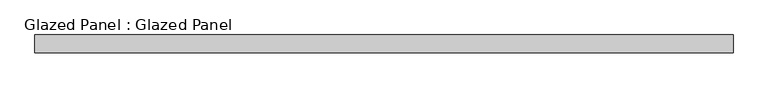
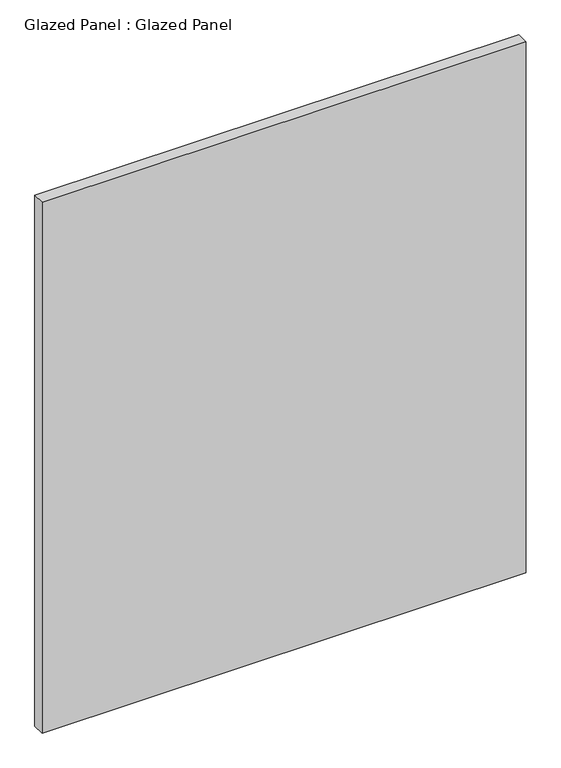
"""IFC4 building model written with IfcOpenShell, lengths in millimetres: plate geometry, Glazed Panel : Glazed Panel."""

from ifc_helpers import new_model, si_unit, origin, origin_with_axes, place, context, project, spatial, polyline, outline, extrude, source, transform, mapped, element, save


def glazed_panel_glazed_panel_c77fde78(model_context):
    return source(origin(), model_context, "Body", "SweptSolid", [
        extrude(outline(polyline([(498.7728003, -38.1), (498.7728003, -63.5), (-498.7728003, -63.5), (-498.7728003, -38.1), (498.7728003, -38.1)])), origin_with_axes(), (0.0, 0.0, 1.0), 1155.7),
    ])


if __name__ == "__main__":
    model = new_model("IFC4")
    model_context = context("Model", 3, world=origin())
    ifc_project = project(units=[si_unit("LENGTHUNIT", "METRE", prefix="MILLI")], contexts=[model_context])
    site = spatial("IfcSite", under=ifc_project)
    building = spatial("IfcBuilding", under=site)
    placement = place(None, origin())
    glazed_panel_glazed_panel_shape = glazed_panel_glazed_panel_c77fde78(model_context)
    element("IfcPlate", 1, ObjectType="Glazed Panel : Glazed Panel", at=placement, inside=building, context=model_context, shape_type="MappedRepresentation", body=[
        mapped(glazed_panel_glazed_panel_shape, transform((0.0, 0.0, 0.0), x_axis=(1.0, 0.0, 0.0), y_axis=(0.0, 1.0, 0.0), z_axis=(0.0, 0.0, 1.0))),
    ])
    save(model, "model.ifc")
